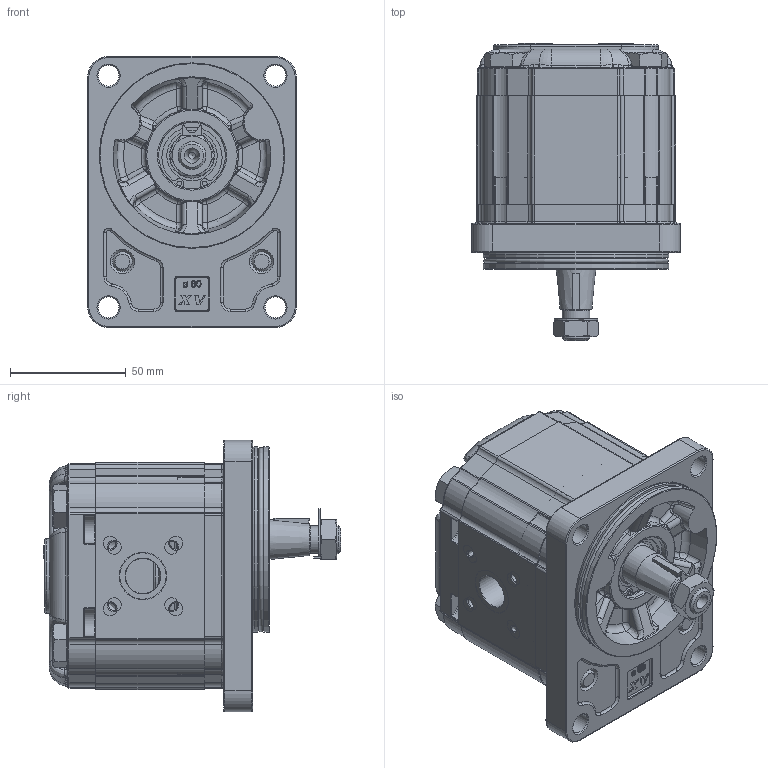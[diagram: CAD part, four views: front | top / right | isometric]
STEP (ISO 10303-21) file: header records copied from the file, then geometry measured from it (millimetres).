
FILE_DESCRIPTION( ( 'Unknown' ), '1' );
FILE_NAME( 'P:/montaggio_easy/output/STP/X2P4141FSRA.stp', 'Unknown', ( 'Unknown' ), ( 'Unknown' ), 'PSStep 14.0', 'Unknown', ' ' );
FILE_SCHEMA( ( 'AUTOMOTIVE_DESIGN { 1 0 10303 214 1 1 1 1 }' ) );
Length unit declared in the file: millimetre
Products named in the file (5): Assem1; X2P41; 2F; X2SRH47; XP217-A
Bounding box: 90 x 128.15 x 117 mm (x, y, z)
Volume: 1350145.2 mm3; surface area: 214342.7 mm2
Topology: 8 solids, 10 shells, 3634 faces, 9294 edges, 5896 vertices
Faces by surface type: plane 1656, cylinder 888, extrusion 354, torus 298, bspline 250, cone 164, sphere 24
Full cylindrical faces by diameter (mm): 2 x4, 5 x16, 9 x8, 10.5 x8, 12 x4, 12.5 x2, 15 x2, 16 x8, 17.42 x2, 17.48 x4, 18.724 x2, 20 x2, 20.595 x2, 21.741 x2, 25.834 x2, 28.56 x2, 28.57 x2, 28.8 x2, 30.5 x2, 40 x2, 77.2 x4, 80 x4
Entity records: 79532 total; most frequent: CARTESIAN_POINT 22103, ORIENTED_EDGE 8960, DIRECTION 8539, EDGE_CURVE 4480, AXIS2_PLACEMENT_3D 2924, VERTEX_POINT 2911, VECTOR 2691, LINE 2514
